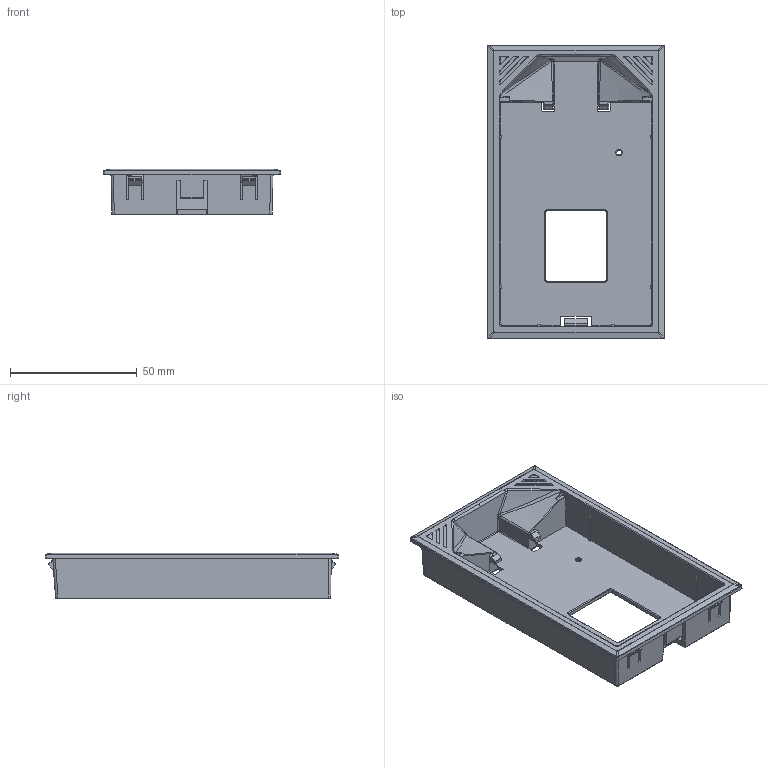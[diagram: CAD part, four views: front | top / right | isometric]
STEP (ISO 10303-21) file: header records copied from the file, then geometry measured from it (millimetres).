
FILE_DESCRIPTION(('STEP AP203'), '1');
FILE_NAME('NCI-MF _ Ðàìêà ìîíòàæíàÿ', '2025-01-13T10:01:04', ('admin'), (''), 'C3D Converter', 'C3D Toolkit', '');
FILE_SCHEMA(('CONFIG_CONTROL_DESIGN'));
Length unit declared in the file: millimetre
Products named in the file (1): NCI-MF
Bounding box: 70 x 116 x 18 mm (x, y, z)
Volume: 23403.9 mm3; surface area: 28040.1 mm2
Topology: 1 solids, 1 shells, 557 faces, 1432 edges, 882 vertices
Faces by surface type: plane 218, cylinder 181, bspline 136, sphere 10, cone 6, extrusion 4, torus 2
Full cylindrical faces by diameter (mm): 2 x1
Entity records: 30547 total; most frequent: CARTESIAN_POINT 14298, ORIENTED_EDGE 2858, DIRECTION 1833, EDGE_CURVE 1429, VERTEX_POINT 882, VECTOR 781, LINE 777, EDGE_LOOP 583
